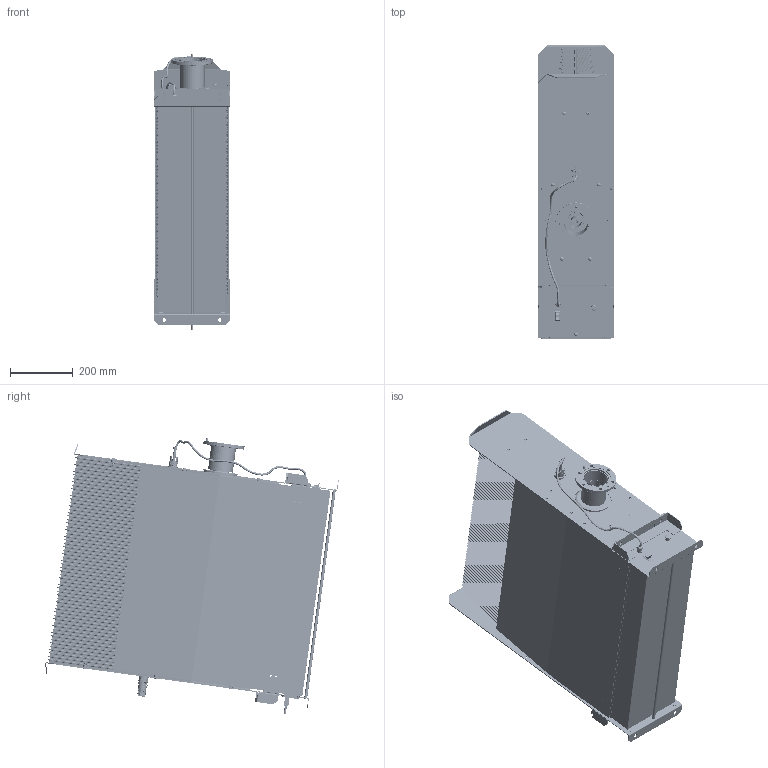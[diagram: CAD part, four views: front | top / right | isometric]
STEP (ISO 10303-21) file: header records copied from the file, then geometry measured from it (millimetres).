
FILE_DESCRIPTION(/* description */ ('Unknown'),/* implementation_level */ '2;1');
FILE_NAME(/* name */ '8931a116-11',/* time_stamp */ '2015-11-12T11:58:57-05:00',/* author */ ('Unknown'),/* organization */ ('Unknown'),/* preprocessor_version */ 'ST-DEVELOPER v16',/* originating_system */ 'DEX',/* authorisation */ $);
FILE_SCHEMA (('AUTOMOTIVE_DESIGN {1 0 10303 214 3 1 1}'));
Products named in the file (1): 8931a116-11
Bounding box: 241.62 x 934.83 x 877.52 mm (x, y, z)
Volume: 16792050.1 mm3; surface area: 12184416.5 mm2
Topology: 90 solids, 92 shells, 5390 faces, 17293 edges, 12404 vertices
Faces by surface type: plane 3497, cylinder 1327, bspline 363, cone 143, torus 34, sphere 26
Full cylindrical faces by diameter (mm): 1.143 x4, 2.032 x2, 2.156 x1, 2.261 x1, 2.578 x12, 2.616 x8, 2.845 x12, 3.306 x4, 3.556 x2, 3.81 x2, 3.967 x4, 4.039 x2, 4.14 x3, 4.166 x6, 4.216 x2, 4.75 x1, 4.826 x4, 5.283 x8, 5.334 x12, 5.556 x8, 5.588 x1, 5.791 x4, 5.865 x1, 5.953 x4, 6.147 x1, 6.223 x1, 6.35 x33, 6.388 x1, 6.528 x1, 6.629 x1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
Entity records: 292278 total; most frequent: CARTESIAN_POINT 140631, ORIENTED_EDGE 33282, DIRECTION 25889, EDGE_CURVE 16641, VERTEX_POINT 12264, LINE 8913, VECTOR 8913, AXIS2_PLACEMENT_3D 8488
